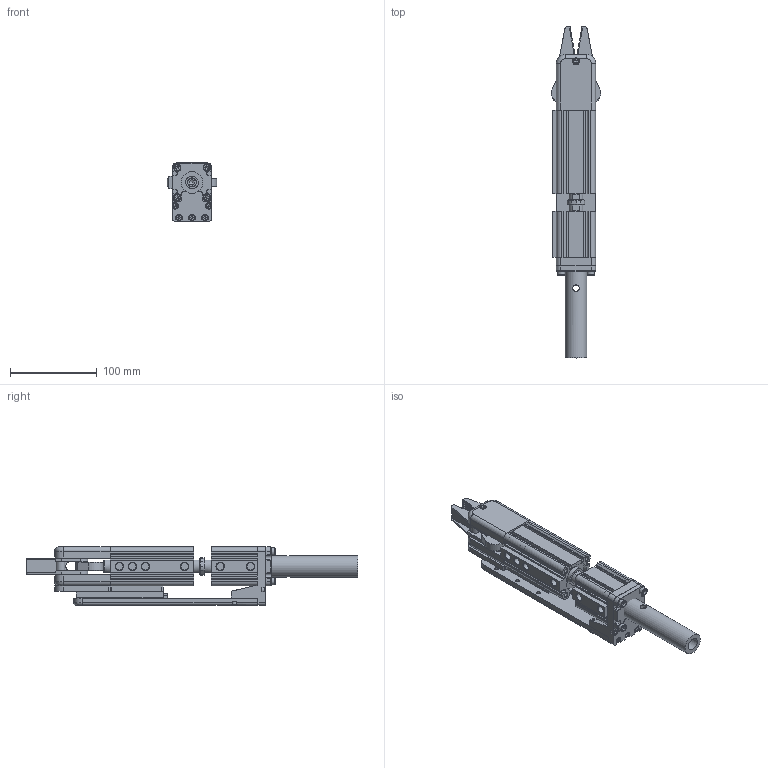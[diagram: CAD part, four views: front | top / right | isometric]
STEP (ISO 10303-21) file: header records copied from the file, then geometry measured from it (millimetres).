
FILE_DESCRIPTION(/* description */ (''),/* implementation_level */ '2;1');
FILE_NAME(/* name */ 'GRP32B-3020--25.stp',/* time_stamp */ '2023-02-20T16:02:25+08:00',/* author */ (''),/* organization */ (''),/* preprocessor_version */ 'ST-DEVELOPER v16',/* originating_system */ 'SIEMENS PLM Software NX 10.0',/* authorisation */ '');
FILE_SCHEMA (('AUTOMOTIVE_DESIGN { 1 0 10303 214 3 1 1 1 }'));
Products named in the file (1): _model29
Bounding box: 56.95 x 381.81 x 67 mm (x, y, z)
Volume: 478768.5 mm3; surface area: 193411.1 mm2
Topology: 15 solids, 30 shells, 2700 faces, 5517 edges, 2948 vertices
Faces by surface type: plane 2155, cylinder 354, cone 152, revolution 25, sphere 14
Full cylindrical faces by diameter (mm): 2.5 x2, 3.3 x8, 4 x12, 4.1 x1, 4.2 x16, 4.5 x8, 4.917 x8, 5 x8, 5.2 x12, 5.5 x8, 6 x13, 6.5 x1, 6.647 x3, 6.8 x1, 7 x12, 7.5 x2, 8 x7, 8.5 x9, 8.566 x6, 8.6 x1, 9 x16, 10 x5, 13 x2, 13.5 x1, 14 x1, 14.5 x1, 15 x2, 16 x4, 17 x12, 18.129 x1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
Entity records: 84403 total; most frequent: CARTESIAN_POINT 11869, DIRECTION 11295, ORIENTED_EDGE 9982, EDGE_CURVE 4991, LINE 3876, VECTOR 3876, AXIS2_PLACEMENT_3D 3697, EDGE_LOOP 3218
